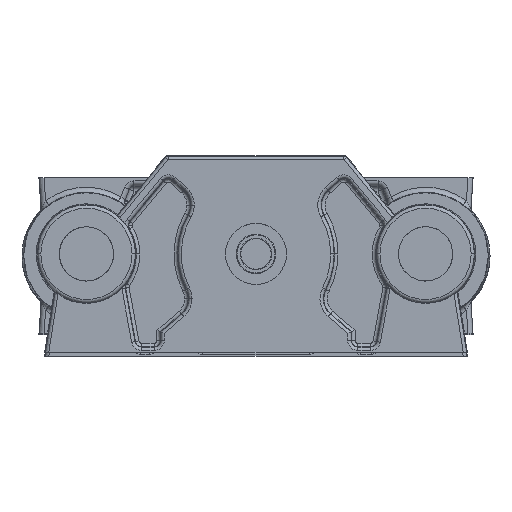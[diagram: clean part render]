
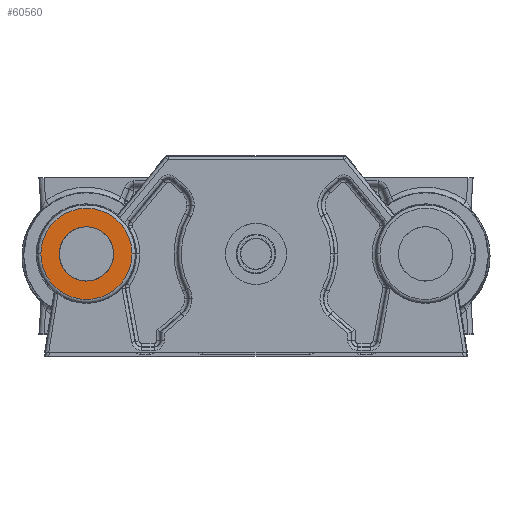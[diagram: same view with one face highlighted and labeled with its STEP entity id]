
A CAD part, top view. The second image highlights one B-rep face of the part: STEP entity #60560.
In plain terms, the highlighted planar face has unit normal (0, 0, 1).
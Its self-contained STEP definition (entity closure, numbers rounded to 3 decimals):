
#2143 = CARTESIAN_POINT ( 'NONE',  ( -50., 30., 14.5 ) ) ;
#2151 = CIRCLE ( 'NONE', #38748, 8. ) ;
#5478 = ORIENTED_EDGE ( 'NONE', *, *, #45883, .F. ) ;
#6497 = CARTESIAN_POINT ( 'NONE',  ( -50., 30., 14.5 ) ) ;
#6705 = ORIENTED_EDGE ( 'NONE', *, *, #39774, .T. ) ;
#7361 = DIRECTION ( 'NONE',  ( 1., 0., 0. ) ) ;
#14387 = CARTESIAN_POINT ( 'NONE',  ( -42., 30., 14.5 ) ) ;
#16630 = VERTEX_POINT ( 'NONE', #36550 ) ;
#20201 = CARTESIAN_POINT ( 'NONE',  ( -50., 30., 14.5 ) ) ;
#20491 = DIRECTION ( 'NONE',  ( 0., 0., 1. ) ) ;
#23434 = FACE_OUTER_BOUND ( 'NONE', #27954, .T. ) ;
#24576 = DIRECTION ( 'NONE',  ( 0., 0., 1. ) ) ;
#27496 = PLANE ( 'NONE',  #68375 ) ;
#27954 = EDGE_LOOP ( 'NONE', ( #6705, #56352 ) ) ;
#30440 = CARTESIAN_POINT ( 'NONE',  ( -58., 30., 14.5 ) ) ;
#31175 = AXIS2_PLACEMENT_3D ( 'NONE', #38017, #24576, #80989 ) ;
#36550 = CARTESIAN_POINT ( 'NONE',  ( -36.554, 30., 14.5 ) ) ;
#38017 = CARTESIAN_POINT ( 'NONE',  ( -50., 30., 14.5 ) ) ;
#38431 = EDGE_CURVE ( 'NONE', #64438, #44805, #58890, .T. ) ;
#38748 = AXIS2_PLACEMENT_3D ( 'NONE', #79290, #79569, #61264 ) ;
#39534 = DIRECTION ( 'NONE',  ( 0., 0., 1. ) ) ;
#39774 = EDGE_CURVE ( 'NONE', #16630, #60650, #79240, .T. ) ;
#42443 = EDGE_LOOP ( 'NONE', ( #71344, #5478 ) ) ;
#44805 = VERTEX_POINT ( 'NONE', #30440 ) ;
#45883 = EDGE_CURVE ( 'NONE', #44805, #64438, #2151, .T. ) ;
#53936 = FACE_BOUND ( 'NONE', #42443, .T. ) ;
#56352 = ORIENTED_EDGE ( 'NONE', *, *, #79994, .T. ) ;
#57043 = DIRECTION ( 'NONE',  ( 1., 0., 0. ) ) ;
#58890 = CIRCLE ( 'NONE', #80950, 8. ) ;
#60560 = ADVANCED_FACE ( 'NONE', ( #23434, #53936 ), #27496, .T. ) ;
#60650 = VERTEX_POINT ( 'NONE', #78371 ) ;
#61264 = DIRECTION ( 'NONE',  ( 1., 0., 0. ) ) ;
#64438 = VERTEX_POINT ( 'NONE', #14387 ) ;
#67988 = AXIS2_PLACEMENT_3D ( 'NONE', #20201, #20491, #7361 ) ;
#68375 = AXIS2_PLACEMENT_3D ( 'NONE', #2143, #39534, #77298 ) ;
#71344 = ORIENTED_EDGE ( 'NONE', *, *, #38431, .F. ) ;
#77298 = DIRECTION ( 'NONE',  ( 1., 0., 0. ) ) ;
#78371 = CARTESIAN_POINT ( 'NONE',  ( -63.446, 30., 14.5 ) ) ;
#79240 = CIRCLE ( 'NONE', #31175, 13.446 ) ;
#79290 = CARTESIAN_POINT ( 'NONE',  ( -50., 30., 14.5 ) ) ;
#79569 = DIRECTION ( 'NONE',  ( 0., 0., 1. ) ) ;
#79994 = EDGE_CURVE ( 'NONE', #60650, #16630, #81248, .T. ) ;
#80950 = AXIS2_PLACEMENT_3D ( 'NONE', #6497, #81377, #57043 ) ;
#80989 = DIRECTION ( 'NONE',  ( 1., 0., 0. ) ) ;
#81248 = CIRCLE ( 'NONE', #67988, 13.446 ) ;
#81377 = DIRECTION ( 'NONE',  ( 0., 0., 1. ) ) ;
